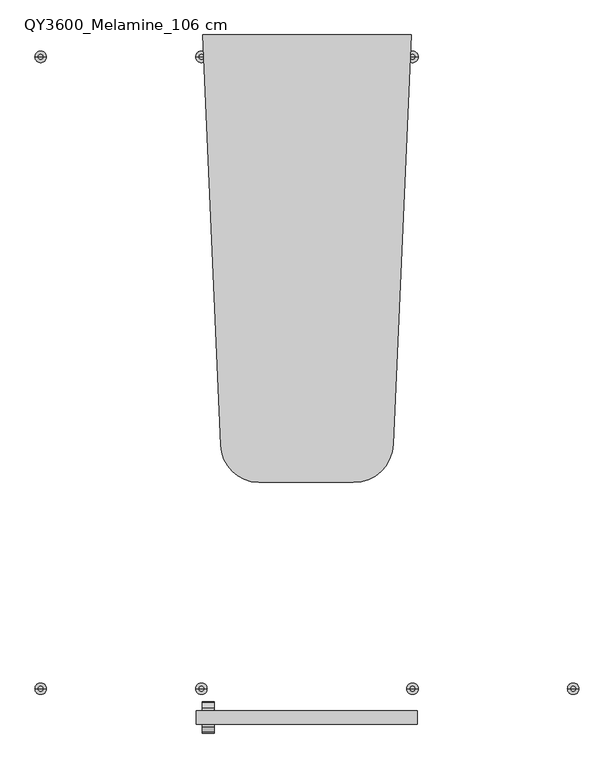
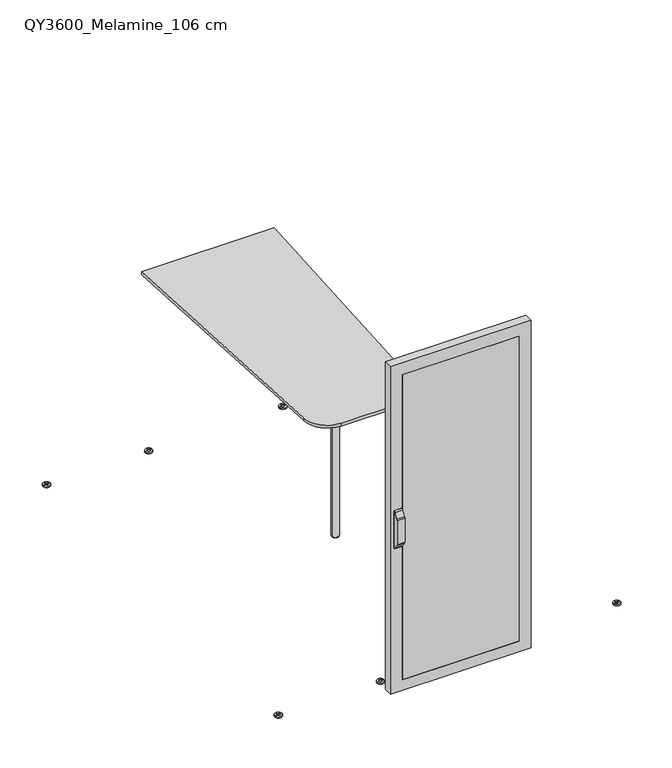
"""IFC4 building model written with IfcOpenShell, lengths in millimetres: furniture geometry, Qyos_600 : QY3600_Melamine_106 cm."""

from ifc_helpers import new_model, si_unit, point, frame, frame_2d, origin, origin_with_axes, place, context, project, spatial, polyline, circle_curve, ellipse_curve, trimmed, segment, composite_curve, outline, extrude, source, transform, mapped, element, save
from ifc_brep_helpers import plane_surface, cylinder_surface, revolved_surface, advanced_brep


def qy3600_melamine_106_cm_69a632e4(model_context):
    return source(origin(), model_context, "Body", "SolidModel", [
        advanced_brep(
        [(-374.085107, -1415.6314016, 980.9779398), (-374.085107, -1415.6314016, 985.9647191), (-374.085107, -1427.9469969, 991.7354618), (-374.085107, -1445.0438473, 1019.0961419), (-374.085107, -1447.6320377, 1028.7554001), (-374.085107, -1447.6320377, 1173.7554001), (-374.085107, -1443.2020658, 1196.5456299), (-374.085107, -1426.4262787, 1221.4167571), (-374.085107, -1415.6314016, 1224.0702851), (-374.085107, -1415.6314016, 1230.9669096), (-374.085107, -1427.162848, 1226.3079029), (-374.085107, -1447.7819627, 1194.5572505), (-374.085107, -1450.5, 1186.1919919), (-374.085107, -1450.5, 1025.2), (-374.085107, -1447.5610872, 1017.1254034), (-374.085107, -1427.1968679, 985.7672556), (-422.0329647, -1415.6314016, 1230.9669096), (-422.0329647, -1415.6314016, 980.9779398), (-422.0329647, -1427.1968679, 985.7672556), (-422.0329647, -1447.5610872, 1017.1254034), (-422.0329647, -1450.5, 1025.2), (-422.0329647, -1450.5, 1186.1919919), (-422.0329647, -1447.7819627, 1194.5572505), (-422.0329647, -1427.162848, 1226.3079029), (-419.3636893, -1415.6314016, 1224.0702851), (-419.3636893, -1415.6314016, 985.9647191), (-419.3636893, -1427.9469969, 991.7354618), (-419.3636893, -1426.4262787, 1221.4167571), (-419.3636893, -1443.2020658, 1196.5456299), (-419.3636893, -1447.6320377, 1173.7554001), (-419.3636893, -1447.6320377, 1028.7554001), (-419.3636893, -1445.0438473, 1019.0961419)],
        [
            (0, 1),
            (1, 2, circle_curve(frame((-374.085107, -1415.4805644, 1002.3136249), z_axis=(-1.0, 0.0, 0.0), x_axis=(0.0, -1.0, 0.0)), 16.3496016)),
            (2, 3, circle_curve(frame((-374.085107, 230.4570487, 2047.0433119), z_axis=(-1.0, 0.0, 0.0), x_axis=(0.0, -1.0, 0.0)), 1965.7005461)),
            (3, 4, circle_curve(frame((-374.085107, -1430.0644692, 1028.286235), z_axis=(-1.0, 0.0, 0.0), x_axis=(0.0, -1.0, 0.0)), 17.5738323)),
            (4, 5),
            (5, 6, circle_curve(frame((-374.085107, -1386.7942676, 1173.7554001), z_axis=(-1.0, 0.0, 0.0), x_axis=(0.0, -1.0, 0.0)), 60.8377701)),
            (6, 7, circle_curve(frame((-374.085107, -1702.3576761, 1389.4415655), z_axis=(1.0, 0.0, 0.0), x_axis=(0.0, -1.0, 0.0)), 323.0641922)),
            (7, 8, circle_curve(frame((-374.085107, -1415.6314016, 1200.7860796), z_axis=(-1.0, 0.0, 0.0), x_axis=(0.0, -1.0, 0.0)), 23.2842055)),
            (8, 9),
            (9, 10, circle_curve(frame((-374.085107, -1417.4087289, 1218.7657801), z_axis=(1.0, 0.0, 0.0), x_axis=(0.0, -1.0, 0.0)), 12.3299009)),
            (10, 11, circle_curve(frame((-374.085107, -818.9237769, 808.7424006), z_axis=(1.0, 0.0, 0.0), x_axis=(0.0, -1.0, 0.0)), 737.777552)),
            (11, 12, circle_curve(frame((-374.085107, -1431.7589098, 1184.7268438), z_axis=(1.0, 0.0, 0.0), x_axis=(0.0, -1.0, 0.0)), 18.7982744)),
            (12, 13),
            (13, 14, circle_curve(frame((-374.085107, -1403.525418, 1037.7252129), z_axis=(1.0, 0.0, 0.0), x_axis=(0.0, -1.0, 0.0)), 48.615762)),
            (14, 15, circle_curve(frame((-374.085107, -1050.5394908, 1252.6628295), z_axis=(1.0, 0.0, 0.0), x_axis=(0.0, -1.0, 0.0)), 461.6319174)),
            (15, 0, circle_curve(frame((-374.085107, -1417.6091735, 992.560998), z_axis=(1.0, 0.0, 0.0), x_axis=(0.0, -1.0, 0.0)), 11.7506945)),
            (16, 17),
            (17, 18, circle_curve(frame((-422.0329647, -1417.6091735, 992.560998), z_axis=(-1.0, 0.0, 0.0), x_axis=(0.0, -1.0, 0.0)), 11.7506945)),
            (18, 19, circle_curve(frame((-422.0329647, -1050.5394908, 1252.6628295), z_axis=(-1.0, 0.0, 0.0), x_axis=(0.0, -1.0, 0.0)), 461.6319174)),
            (19, 20, circle_curve(frame((-422.0329647, -1403.525418, 1037.7252129), z_axis=(-1.0, 0.0, 0.0), x_axis=(0.0, -1.0, 0.0)), 48.615762)),
            (20, 21),
            (21, 22, circle_curve(frame((-422.0329647, -1431.7589098, 1184.7268438), z_axis=(-1.0, 0.0, 0.0), x_axis=(0.0, -1.0, 0.0)), 18.7982744)),
            (22, 23, circle_curve(frame((-422.0329647, -818.9237769, 808.7424006), z_axis=(-1.0, 0.0, 0.0), x_axis=(0.0, -1.0, 0.0)), 737.777552)),
            (23, 16, circle_curve(frame((-422.0329647, -1417.4087289, 1218.7657801), z_axis=(-1.0, 0.0, 0.0), x_axis=(0.0, -1.0, 0.0)), 12.3299009)),
            (16, 9),
            (8, 24),
            (24, 25),
            (25, 1),
            (0, 17),
            (15, 18),
            (14, 19),
            (13, 20),
            (12, 21),
            (11, 22),
            (10, 23),
            (26, 25, circle_curve(frame((-419.3636893, -1415.4805644, 1002.3136249), z_axis=(1.0, 0.0, 0.0), x_axis=(0.0, -1.0, 0.0)), 16.3496016)),
            (24, 27, circle_curve(frame((-419.3636893, -1415.6314016, 1200.7860796), z_axis=(1.0, 0.0, 0.0), x_axis=(0.0, -1.0, 0.0)), 23.2842055)),
            (27, 28, circle_curve(frame((-419.3636893, -1702.3576761, 1389.4415655), z_axis=(-1.0, 0.0, 0.0), x_axis=(0.0, -1.0, 0.0)), 323.0641922)),
            (28, 29, circle_curve(frame((-419.3636893, -1386.7942676, 1173.7554001), z_axis=(1.0, 0.0, 0.0), x_axis=(0.0, -1.0, 0.0)), 60.8377701)),
            (29, 30),
            (30, 31, circle_curve(frame((-419.3636893, -1430.0644692, 1028.286235), z_axis=(1.0, 0.0, 0.0), x_axis=(0.0, -1.0, 0.0)), 17.5738323)),
            (31, 26, circle_curve(frame((-419.3636893, 230.4570487, 2047.0433119), z_axis=(1.0, 0.0, 0.0), x_axis=(0.0, -1.0, 0.0)), 1965.7005461)),
            (26, 2),
            (31, 3),
            (30, 4),
            (29, 5),
            (28, 6),
            (27, 7),
        ],
        [
            plane_surface(frame((-374.085107, -1415.6314016, 980.9779398), z_axis=(1.0, 0.0, 0.0), x_axis=(0.0, 0.0, -1.0))),
            plane_surface(frame((-422.0329647, -1415.6314016, 980.9779398), z_axis=(-1.0, 0.0, 0.0), x_axis=(0.0, 0.0, 1.0))),
            plane_surface(frame((-374.085107, -1415.6314016, 1230.9669096), z_axis=(0.0, 1.0, 0.0), x_axis=(-1.0, 0.0, 0.0))),
            cylinder_surface(frame((-422.0329647, -1417.6091735, 992.560998), z_axis=(1.0, 0.0, 0.0), x_axis=(0.0, -1.0, 0.0)), 11.7506945),
            cylinder_surface(frame((-422.0329647, -1050.5394908, 1252.6628295), z_axis=(1.0, 0.0, 0.0), x_axis=(0.0, -1.0, 0.0)), 461.6319174),
            cylinder_surface(frame((-422.0329647, -1403.525418, 1037.7252129), z_axis=(1.0, 0.0, 0.0), x_axis=(0.0, -1.0, 0.0)), 48.615762),
            plane_surface(frame((-374.085107, -1450.5, 1025.2), z_axis=(0.0, -1.0, 0.0), x_axis=(-1.0, 0.0, 0.0))),
            cylinder_surface(frame((-422.0329647, -1431.7589098, 1184.7268438), z_axis=(1.0, 0.0, 0.0), x_axis=(0.0, -1.0, 0.0)), 18.7982744),
            cylinder_surface(frame((-422.0329647, -818.9237769, 808.7424006), z_axis=(1.0, 0.0, 0.0), x_axis=(0.0, -1.0, 0.0)), 737.777552),
            cylinder_surface(frame((-422.0329647, -1417.4087289, 1218.7657801), z_axis=(1.0, 0.0, 0.0), x_axis=(0.0, -1.0, 0.0)), 12.3299009),
            plane_surface(frame((-419.3636893, -1401.7185794, 1224.0702851), z_axis=(1.0, 0.0, 0.0), x_axis=(0.0, 0.0, 1.0))),
            revolved_surface(polyline([(-374.085107, -1431.830166, 1002.3136249), (-419.3636893, -1431.830166, 1002.3136249)]), (-419.3636893, -1415.4805644, 1002.3136249), (1.0, 0.0, 0.0)),
            revolved_surface(polyline([(-374.085107, -1735.2434974, 2047.0433119), (-419.3636893, -1735.2434974, 2047.0433119)]), (-419.3636893, 230.4570487, 2047.0433119), (1.0, 0.0, 0.0)),
            revolved_surface(polyline([(-374.085107, -1447.6383015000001, 1028.286235), (-419.3636893, -1447.6383015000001, 1028.286235)]), (-419.3636893, -1430.0644692, 1028.286235), (1.0, 0.0, 0.0)),
            plane_surface(frame((-366.879078, -1447.6320377, 1028.7554001), z_axis=(0.0, 1.0, 0.0), x_axis=(-1.0, 0.0, 0.0))),
            revolved_surface(polyline([(-374.085107, -1447.6320377, 1173.7554001), (-419.3636893, -1447.6320377, 1173.7554001)]), (-419.3636893, -1386.7942676, 1173.7554001), (1.0, 0.0, 0.0)),
            cylinder_surface(frame((-419.3636893, -1702.3576761, 1389.4415655), z_axis=(-1.0, 0.0, 0.0), x_axis=(0.0, -1.0, 0.0)), 323.0641922),
            revolved_surface(polyline([(-374.085107, -1438.9156071, 1200.7860796), (-419.3636893, -1438.9156071, 1200.7860796)]), (-419.3636893, -1415.6314016, 1200.7860796), (1.0, 0.0, 0.0)),
        ],
        [
            (0, [[1, 2, 3, 4, 5, 6, 7, 8, 9, 10, 11, 12, 13, 14, 15, 16]]),
            (1, [[17, 18, 19, 20, 21, 22, 23, 24]]),
            (2, [[25, -9, 26, 27, 28, -1, 29, -17]]),
            (3, [[30, -18, -29, -16]]),
            (4, [[31, -19, -30, -15]]),
            (5, [[32, -20, -31, -14]]),
            (6, [[33, -21, -32, -13]]),
            (7, [[34, -22, -33, -12]]),
            (8, [[35, -23, -34, -11]]),
            (9, [[-25, -24, -35, -10]]),
            (10, [[36, -27, 37, 38, 39, 40, 41, 42]]),
            (11, [[43, -2, -28, -36]]),
            (12, [[44, -3, -43, -42]]),
            (13, [[45, -4, -44, -41]]),
            (14, [[46, -5, -45, -40]]),
            (15, [[47, -6, -46, -39]]),
            (16, [[48, -7, -47, -38]]),
            (17, [[-26, -8, -48, -37]]),
        ],
    ),
        extrude(outline(composite_curve([segment(polyline([(1230.9669096, -377.0853832), (1230.9669096, -417.0486701)]), True, "CONTINUOUS"), segment(trimmed(circle_curve(frame_2d((1225.973762, -417.0486701)), 4.9931477), [point((1230.9669096, -417.0486701))], [point((1225.973762, -422.0418178))], False, "CARTESIAN"), True, "CONTINUOUS"), segment(polyline([(1225.973762, -422.0418178), (985.9710874, -422.0418178)]), True, "CONTINUOUS"), segment(trimmed(circle_curve(frame_2d((985.9710874, -417.0486701)), 4.9931477), [point((985.9710874, -422.0418178))], [point((980.9779398, -417.0486701))], False, "CARTESIAN"), True, "CONTINUOUS"), segment(polyline([(980.9779398, -417.0486701), (980.9779398, -377.0831887)]), True, "CONTINUOUS"), segment(trimmed(circle_curve(frame_2d((983.9760215, -377.0831887)), 2.9980817), [point((980.9779398, -377.0831887))], [point((983.9760215, -374.085107))], False, "CARTESIAN"), True, "CONTINUOUS"), segment(polyline([(983.9760215, -374.085107), (985.9777208, -374.085107)]), True, "CONTINUOUS"), segment(trimmed(circle_curve(frame_2d((985.9777208, -376.3357001)), 2.2505931), [point((985.9777208, -374.085107))], [point((988.1941223, -375.9448887))], False, "CARTESIAN"), True, "CONTINUOUS"), segment(trimmed(circle_curve(frame_2d((1002.686839, -375.1402608)), 14.5150358), [point((988.1941223, -375.9448887))], [point((999.6402401, -389.331966))], True, "CARTESIAN"), True, "CONTINUOUS"), segment(trimmed(circle_curve(frame_2d((999.3564071, -397.3512428)), 8.0242982), [point((999.6402401, -389.331966))], [point((1007.3803501, -397.4267349))], False, "CARTESIAN"), True, "CONTINUOUS"), segment(trimmed(circle_curve(frame_2d((984.8527266, -400.9632944)), 22.803532), [point((1007.3803501, -397.4267349))], [point((1007.3098217, -404.9230861))], False, "CARTESIAN"), True, "CONTINUOUS"), segment(trimmed(circle_curve(frame_2d((1018.7344643, -406.9375589)), 11.600886), [point((1007.3098217, -404.9230861))], [point((1018.7344643, -418.5384449))], True, "CARTESIAN"), True, "CONTINUOUS"), segment(polyline([(1018.7344643, -418.5384449), (1193.2103851, -418.5384449)]), True, "CONTINUOUS"), segment(trimmed(circle_curve(frame_2d((1193.2103851, -406.5714853)), 11.9669596), [point((1193.2103851, -418.5384449))], [point((1205.1773447, -406.5714853))], True, "CARTESIAN"), True, "CONTINUOUS"), segment(polyline([(1205.1773447, -406.5714853), (1205.1773447, -398.0395804)]), True, "CONTINUOUS"), segment(trimmed(circle_curve(frame_2d((1213.8757406, -398.0395804)), 8.6983958), [point((1205.1773447, -398.0395804))], [point((1212.36528, -389.4733327))], False, "CARTESIAN"), True, "CONTINUOUS"), segment(trimmed(circle_curve(frame_2d((1209.9037954, -375.5135599)), 14.1751248), [point((1212.36528, -389.4733327))], [point((1224.0702851, -376.0082646))], True, "CARTESIAN"), True, "CONTINUOUS"), segment(trimmed(circle_curve(frame_2d((1225.9934427, -376.0082646)), 1.9231576), [point((1224.0702851, -376.0082646))], [point((1225.9934427, -374.085107))], False, "CARTESIAN"), True, "CONTINUOUS"), segment(polyline([(1225.9934427, -374.085107), (1227.9666334, -374.085107)]), True, "CONTINUOUS"), segment(trimmed(circle_curve(frame_2d((1227.9666334, -377.0853832)), 3.0002762), [point((1227.9666334, -374.085107))], [point((1230.9669096, -377.0853832))], False, "CARTESIAN"), True, "CONTINUOUS")], self_intersect=False)), frame((0.0, -1415.6314016, 0.0), z_axis=(0.0, 1.0, 0.0), x_axis=(0.0, 0.0, 1.0)), (0.0, 0.0, 1.0), 0.6314016),
        advanced_brep(
        [(-374.085107, -1359.3642803, 980.9779398), (-374.085107, -1347.798814, 985.7672556), (-374.085107, -1327.4345947, 1017.1254034), (-374.085107, -1324.4956819, 1025.2), (-374.085107, -1324.4956819, 1186.1919919), (-374.085107, -1327.2137192, 1194.5572505), (-374.085107, -1347.8328339, 1226.3079029), (-374.085107, -1359.3642803, 1230.9669096), (-374.085107, -1359.3642803, 1224.0702851), (-374.085107, -1348.5694032, 1221.4167571), (-374.085107, -1331.7936161, 1196.5456299), (-374.085107, -1327.3636441, 1173.7554001), (-374.085107, -1327.3636441, 1028.7554001), (-374.085107, -1329.9518346, 1019.0961419), (-374.085107, -1347.048685, 991.7354618), (-374.085107, -1359.3642803, 985.9647191), (-422.0329647, -1359.3642803, 1230.9669096), (-422.0329647, -1347.8328339, 1226.3079029), (-422.0329647, -1327.2137192, 1194.5572505), (-422.0329647, -1324.4956819, 1186.1919919), (-422.0329647, -1324.4956819, 1025.2), (-422.0329647, -1327.4345947, 1017.1254034), (-422.0329647, -1347.798814, 985.7672556), (-422.0329647, -1359.3642803, 980.9779398), (-419.3636893, -1359.3642803, 985.9647191), (-419.3636893, -1359.3642803, 1224.0702851), (-419.3636893, -1347.048685, 991.7354618), (-419.3636893, -1329.9518346, 1019.0961419), (-419.3636893, -1327.3636441, 1028.7554001), (-419.3636893, -1327.3636441, 1173.7554001), (-419.3636893, -1331.7936161, 1196.5456299), (-419.3636893, -1348.5694032, 1221.4167571)],
        [
            (0, 1, circle_curve(frame((-374.085107, -1357.3865084, 992.560998), z_axis=(1.0, 0.0, 0.0), x_axis=(0.0, 1.0, 0.0)), 11.7506945)),
            (1, 2, circle_curve(frame((-374.085107, -1724.4561911, 1252.6628295), z_axis=(1.0, 0.0, 0.0), x_axis=(0.0, 1.0, 0.0)), 461.6319174)),
            (2, 3, circle_curve(frame((-374.085107, -1371.4702639, 1037.7252129), z_axis=(1.0, 0.0, 0.0), x_axis=(0.0, 1.0, 0.0)), 48.615762)),
            (3, 4),
            (4, 5, circle_curve(frame((-374.085107, -1343.236772, 1184.7268438), z_axis=(1.0, 0.0, 0.0), x_axis=(0.0, 1.0, 0.0)), 18.7982744)),
            (5, 6, circle_curve(frame((-374.085107, -1956.071905, 808.7424006), z_axis=(1.0, 0.0, 0.0), x_axis=(0.0, 1.0, 0.0)), 737.777552)),
            (6, 7, circle_curve(frame((-374.085107, -1357.586953, 1218.7657801), z_axis=(1.0, 0.0, 0.0), x_axis=(0.0, 1.0, 0.0)), 12.3299009)),
            (7, 8),
            (8, 9, circle_curve(frame((-374.085107, -1359.3642803, 1200.7860796), z_axis=(-1.0, 0.0, 0.0), x_axis=(0.0, 1.0, 0.0)), 23.2842055)),
            (9, 10, circle_curve(frame((-374.085107, -1072.6380058, 1389.4415655), z_axis=(1.0, 0.0, 0.0), x_axis=(0.0, 1.0, 0.0)), 323.0641922)),
            (10, 11, circle_curve(frame((-374.085107, -1388.2014142, 1173.7554001), z_axis=(-1.0, 0.0, 0.0), x_axis=(0.0, 1.0, 0.0)), 60.8377701)),
            (11, 12),
            (12, 13, circle_curve(frame((-374.085107, -1344.9312127, 1028.286235), z_axis=(-1.0, 0.0, 0.0), x_axis=(0.0, 1.0, 0.0)), 17.5738323)),
            (13, 14, circle_curve(frame((-374.085107, -3005.4527306, 2047.0433119), z_axis=(-1.0, 0.0, 0.0), x_axis=(0.0, 1.0, 0.0)), 1965.7005461)),
            (14, 15, circle_curve(frame((-374.085107, -1359.5151175, 1002.3136249), z_axis=(-1.0, 0.0, 0.0), x_axis=(0.0, 1.0, 0.0)), 16.3496016)),
            (15, 0),
            (16, 17, circle_curve(frame((-422.0329647, -1357.586953, 1218.7657801), z_axis=(-1.0, 0.0, 0.0), x_axis=(0.0, 1.0, 0.0)), 12.3299009)),
            (17, 18, circle_curve(frame((-422.0329647, -1956.071905, 808.7424006), z_axis=(-1.0, 0.0, 0.0), x_axis=(0.0, 1.0, 0.0)), 737.777552)),
            (18, 19, circle_curve(frame((-422.0329647, -1343.236772, 1184.7268438), z_axis=(-1.0, 0.0, 0.0), x_axis=(0.0, 1.0, 0.0)), 18.7982744)),
            (19, 20),
            (20, 21, circle_curve(frame((-422.0329647, -1371.4702639, 1037.7252129), z_axis=(-1.0, 0.0, 0.0), x_axis=(0.0, 1.0, 0.0)), 48.615762)),
            (21, 22, circle_curve(frame((-422.0329647, -1724.4561911, 1252.6628295), z_axis=(-1.0, 0.0, 0.0), x_axis=(0.0, 1.0, 0.0)), 461.6319174)),
            (22, 23, circle_curve(frame((-422.0329647, -1357.3865084, 992.560998), z_axis=(-1.0, 0.0, 0.0), x_axis=(0.0, 1.0, 0.0)), 11.7506945)),
            (23, 16),
            (23, 0),
            (15, 24),
            (24, 25),
            (25, 8),
            (7, 16),
            (22, 1),
            (21, 2),
            (20, 3),
            (19, 4),
            (18, 5),
            (17, 6),
            (26, 27, circle_curve(frame((-419.3636893, -3005.4527306, 2047.0433119), z_axis=(1.0, 0.0, 0.0), x_axis=(0.0, 1.0, 0.0)), 1965.7005461)),
            (27, 28, circle_curve(frame((-419.3636893, -1344.9312127, 1028.286235), z_axis=(1.0, 0.0, 0.0), x_axis=(0.0, 1.0, 0.0)), 17.5738323)),
            (28, 29),
            (29, 30, circle_curve(frame((-419.3636893, -1388.2014142, 1173.7554001), z_axis=(1.0, 0.0, 0.0), x_axis=(0.0, 1.0, 0.0)), 60.8377701)),
            (30, 31, circle_curve(frame((-419.3636893, -1072.6380058, 1389.4415655), z_axis=(-1.0, 0.0, 0.0), x_axis=(0.0, 1.0, 0.0)), 323.0641922)),
            (31, 25, circle_curve(frame((-419.3636893, -1359.3642803, 1200.7860796), z_axis=(1.0, 0.0, 0.0), x_axis=(0.0, 1.0, 0.0)), 23.2842055)),
            (24, 26, circle_curve(frame((-419.3636893, -1359.5151175, 1002.3136249), z_axis=(1.0, 0.0, 0.0), x_axis=(0.0, 1.0, 0.0)), 16.3496016)),
            (14, 26),
            (13, 27),
            (12, 28),
            (11, 29),
            (10, 30),
            (9, 31),
        ],
        [
            plane_surface(frame((-374.085107, -1359.3642803, 980.9779398), z_axis=(1.0, 0.0, 0.0), x_axis=(0.0, 0.0, -1.0))),
            plane_surface(frame((-422.0329647, -1359.3642803, 980.9779398), z_axis=(-1.0, 0.0, 0.0), x_axis=(0.0, 0.0, 1.0))),
            plane_surface(frame((-374.085107, -1359.3642803, 1230.9669096), z_axis=(0.0, -1.0, 0.0), x_axis=(-1.0, 0.0, 0.0))),
            cylinder_surface(frame((-422.0329647, -1357.3865084, 992.560998), z_axis=(1.0, 0.0, 0.0), x_axis=(0.0, 1.0, 0.0)), 11.7506945),
            cylinder_surface(frame((-422.0329647, -1724.4561911, 1252.6628295), z_axis=(1.0, 0.0, 0.0), x_axis=(0.0, 1.0, 0.0)), 461.6319174),
            cylinder_surface(frame((-422.0329647, -1371.4702639, 1037.7252129), z_axis=(1.0, 0.0, 0.0), x_axis=(0.0, 1.0, 0.0)), 48.615762),
            plane_surface(frame((-374.085107, -1324.4956819, 1025.2), z_axis=(0.0, 1.0, 0.0), x_axis=(-1.0, 0.0, 0.0))),
            cylinder_surface(frame((-422.0329647, -1343.236772, 1184.7268438), z_axis=(1.0, 0.0, 0.0), x_axis=(0.0, 1.0, 0.0)), 18.7982744),
            cylinder_surface(frame((-422.0329647, -1956.071905, 808.7424006), z_axis=(1.0, 0.0, 0.0), x_axis=(0.0, 1.0, 0.0)), 737.777552),
            cylinder_surface(frame((-422.0329647, -1357.586953, 1218.7657801), z_axis=(1.0, 0.0, 0.0), x_axis=(0.0, 1.0, 0.0)), 12.3299009),
            plane_surface(frame((-419.3636893, -1373.2771024, 1224.0702851), z_axis=(1.0, 0.0, 0.0), x_axis=(0.0, 0.0, 1.0))),
            revolved_surface(polyline([(-374.085107, -1343.1655159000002, 1002.3136249), (-419.3636893, -1343.1655159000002, 1002.3136249)]), (-419.3636893, -1359.5151175, 1002.3136249), (1.0, 0.0, 0.0)),
            revolved_surface(polyline([(-374.085107, -1039.7521844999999, 2047.0433119), (-419.3636893, -1039.7521844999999, 2047.0433119)]), (-419.3636893, -3005.4527306, 2047.0433119), (1.0, 0.0, 0.0)),
            revolved_surface(polyline([(-374.085107, -1327.3573804, 1028.286235), (-419.3636893, -1327.3573804, 1028.286235)]), (-419.3636893, -1344.9312127, 1028.286235), (1.0, 0.0, 0.0)),
            plane_surface(frame((-366.879078, -1327.3636441, 1028.7554001), z_axis=(0.0, -1.0, 0.0), x_axis=(-1.0, 0.0, 0.0))),
            revolved_surface(polyline([(-374.085107, -1327.3636441, 1173.7554001), (-419.3636893, -1327.3636441, 1173.7554001)]), (-419.3636893, -1388.2014142, 1173.7554001), (1.0, 0.0, 0.0)),
            cylinder_surface(frame((-419.3636893, -1072.6380058, 1389.4415655), z_axis=(-1.0, 0.0, 0.0), x_axis=(0.0, 1.0, 0.0)), 323.0641922),
            revolved_surface(polyline([(-374.085107, -1336.0800748, 1200.7860796), (-419.3636893, -1336.0800748, 1200.7860796)]), (-419.3636893, -1359.3642803, 1200.7860796), (1.0, 0.0, 0.0)),
        ],
        [
            (0, [[1, 2, 3, 4, 5, 6, 7, 8, 9, 10, 11, 12, 13, 14, 15, 16]]),
            (1, [[17, 18, 19, 20, 21, 22, 23, 24]]),
            (2, [[-24, 25, -16, 26, 27, 28, -8, 29]]),
            (3, [[-1, -25, -23, 30]]),
            (4, [[-2, -30, -22, 31]]),
            (5, [[-3, -31, -21, 32]]),
            (6, [[-4, -32, -20, 33]]),
            (7, [[-5, -33, -19, 34]]),
            (8, [[-6, -34, -18, 35]]),
            (9, [[-7, -35, -17, -29]]),
            (10, [[36, 37, 38, 39, 40, 41, -27, 42]]),
            (11, [[-42, -26, -15, 43]]),
            (12, [[-36, -43, -14, 44]]),
            (13, [[-37, -44, -13, 45]]),
            (14, [[-38, -45, -12, 46]]),
            (15, [[-39, -46, -11, 47]]),
            (16, [[-40, -47, -10, 48]]),
            (17, [[-41, -48, -9, -28]]),
        ],
    ),
        extrude(outline(composite_curve([segment(polyline([(1230.9669096, -377.0853832), (1230.9669096, -417.0486701)]), True, "CONTINUOUS"), segment(trimmed(circle_curve(frame_2d((1225.973762, -417.0486701)), 4.9931477), [point((1230.9669096, -417.0486701))], [point((1225.973762, -422.0418178))], False, "CARTESIAN"), True, "CONTINUOUS"), segment(polyline([(1225.973762, -422.0418178), (985.9710874, -422.0418178)]), True, "CONTINUOUS"), segment(trimmed(circle_curve(frame_2d((985.9710874, -417.0486701)), 4.9931477), [point((985.9710874, -422.0418178))], [point((980.9779398, -417.0486701))], False, "CARTESIAN"), True, "CONTINUOUS"), segment(polyline([(980.9779398, -417.0486701), (980.9779398, -377.0831887)]), True, "CONTINUOUS"), segment(trimmed(circle_curve(frame_2d((983.9760215, -377.0831887)), 2.9980817), [point((980.9779398, -377.0831887))], [point((983.9760215, -374.085107))], False, "CARTESIAN"), True, "CONTINUOUS"), segment(polyline([(983.9760215, -374.085107), (985.9777208, -374.085107)]), True, "CONTINUOUS"), segment(trimmed(circle_curve(frame_2d((985.9777208, -376.3357001)), 2.2505931), [point((985.9777208, -374.085107))], [point((988.1941223, -375.9448887))], False, "CARTESIAN"), True, "CONTINUOUS"), segment(trimmed(circle_curve(frame_2d((1002.686839, -375.1402608)), 14.5150358), [point((988.1941223, -375.9448887))], [point((999.6402401, -389.331966))], True, "CARTESIAN"), True, "CONTINUOUS"), segment(trimmed(circle_curve(frame_2d((999.3564071, -397.3512428)), 8.0242982), [point((999.6402401, -389.331966))], [point((1007.3803501, -397.4267349))], False, "CARTESIAN"), True, "CONTINUOUS"), segment(trimmed(circle_curve(frame_2d((984.8527266, -400.9632944)), 22.803532), [point((1007.3803501, -397.4267349))], [point((1007.3098217, -404.9230861))], False, "CARTESIAN"), True, "CONTINUOUS"), segment(trimmed(circle_curve(frame_2d((1018.7344643, -406.9375589)), 11.600886), [point((1007.3098217, -404.9230861))], [point((1018.7344643, -418.5384449))], True, "CARTESIAN"), True, "CONTINUOUS"), segment(polyline([(1018.7344643, -418.5384449), (1193.2103851, -418.5384449)]), True, "CONTINUOUS"), segment(trimmed(circle_curve(frame_2d((1193.2103851, -406.5714853)), 11.9669596), [point((1193.2103851, -418.5384449))], [point((1205.1773447, -406.5714853))], True, "CARTESIAN"), True, "CONTINUOUS"), segment(polyline([(1205.1773447, -406.5714853), (1205.1773447, -398.0395804)]), True, "CONTINUOUS"), segment(trimmed(circle_curve(frame_2d((1213.8757406, -398.0395804)), 8.6983958), [point((1205.1773447, -398.0395804))], [point((1212.36528, -389.4733327))], False, "CARTESIAN"), True, "CONTINUOUS"), segment(trimmed(circle_curve(frame_2d((1209.9037954, -375.5135599)), 14.1751248), [point((1212.36528, -389.4733327))], [point((1224.0702851, -376.0082646))], True, "CARTESIAN"), True, "CONTINUOUS"), segment(trimmed(circle_curve(frame_2d((1225.9934427, -376.0082646)), 1.9231576), [point((1224.0702851, -376.0082646))], [point((1225.9934427, -374.085107))], False, "CARTESIAN"), True, "CONTINUOUS"), segment(polyline([(1225.9934427, -374.085107), (1227.9666334, -374.085107)]), True, "CONTINUOUS"), segment(trimmed(circle_curve(frame_2d((1227.9666334, -377.0853832)), 3.0002762), [point((1227.9666334, -374.085107))], [point((1230.9669096, -377.0853832))], False, "CARTESIAN"), True, "CONTINUOUS")], self_intersect=False)), frame((0.0, -1359.9956819, 0.0), z_axis=(0.0, 1.0, 0.0), x_axis=(0.0, 0.0, 1.0)), (0.0, 0.0, 1.0), 0.6314016),
        extrude(outline(polyline([(369.5, -1415.0), (-369.5, -1415.0), (-369.5, -1410.0), (369.5, -1410.0), (369.5, -1415.0)])), frame((0.0, 0.0, 82.0), z_axis=(0.0, 0.0, 1.0), x_axis=(1.0, 0.0, 0.0)), (0.0, 0.0, 1.0), 2040.1),
        extrude(outline(polyline([(10.0, -445.0), (10.0, 445.0), (2202.1, 445.0), (2202.1, -445.0), (10.0, -445.0)]), holes=[polyline([(82.0, 369.5), (82.0, -369.5), (2122.1, -369.5), (2122.1, 369.5), (82.0, 369.5)])]), frame((0.0, -1415.0, 0.0), z_axis=(0.0, 1.0, 0.0), x_axis=(0.0, 0.0, 1.0)), (0.0, 0.0, 1.0), 55.0043181),
        advanced_brep(
        [(0.0, -40.0, 82.0), (18.7621631, -40.0, 82.0), (-18.7621631, -40.0, 82.0), (22.480604, -40.0, 85.7184409), (-22.480604, -40.0, 85.7184409), (22.480604, -40.0, 1128.0), (-22.480604, -40.0, 1128.0), (0.0, -40.0, 1128.0)],
        [
            (0, 1),
            (1, 2, circle_curve(frame((0.0, -40.0, 82.0), z_axis=(0.0, 0.0, -1.0), x_axis=(1.0, 0.0, 0.0)), 18.7621631)),
            (2, 0),
            (2, 1, circle_curve(frame((0.0, -40.0, 82.0), z_axis=(0.0, 0.0, -1.0), x_axis=(1.0, 0.0, 0.0)), 18.7621631)),
            (1, 3, circle_curve(frame((16.4330916, -40.0, 88.0475124), z_axis=(0.0, -1.0, 0.0), x_axis=(-1.0, 0.0, 0.0)), 6.4805077)),
            (3, 4, circle_curve(frame((0.0, -40.0, 85.7184409), z_axis=(0.0, 0.0, -1.0), x_axis=(1.0, 0.0, 0.0)), 22.480604)),
            (4, 2, circle_curve(frame((-16.4330916, -40.0, 88.0475124), z_axis=(0.0, -1.0, 0.0), x_axis=(1.0, 0.0, 0.0)), 6.4805077)),
            (4, 3, circle_curve(frame((0.0, -40.0, 85.7184409), z_axis=(0.0, 0.0, -1.0), x_axis=(1.0, 0.0, 0.0)), 22.480604)),
            (3, 5),
            (5, 6, circle_curve(frame((0.0, -40.0, 1128.0), z_axis=(0.0, 0.0, -1.0), x_axis=(1.0, 0.0, 0.0)), 22.480604)),
            (6, 4),
            (6, 5, circle_curve(frame((0.0, -40.0, 1128.0), z_axis=(0.0, 0.0, -1.0), x_axis=(1.0, 0.0, 0.0)), 22.480604)),
            (5, 7),
            (7, 6),
        ],
        [
            plane_surface(frame((0.0, -40.0, 82.0), z_axis=(0.0, 0.0, -1.0), x_axis=(1.0, 0.0, 0.0))),
            revolved_surface(trimmed(ellipse_curve(frame((16.4330916, -40.0, 88.0475124), z_axis=(0.0, 1.0, 0.0), x_axis=(-1.0, 0.0, 0.0)), 6.4805077, 6.4805077), [point((22.480604, -40.0, 85.7184409))], [point((18.7621631, -40.0, 82.0))], True, "CARTESIAN"), (0.0, -40.0, 1997.4144888), (0.0, 0.0, -1.0)),
            cylinder_surface(frame((0.0, -40.0, 1997.4144888), z_axis=(0.0, 0.0, -1.0), x_axis=(1.0, 0.0, 0.0)), 22.480604),
            plane_surface(frame((0.0, -40.0, 1128.0), z_axis=(0.0, 0.0, 1.0), x_axis=(1.0, 0.0, 0.0))),
        ],
        [
            (0, [[1, 2, 3]]),
            (0, [[-3, 4, -1]]),
            (1, [[-2, 5, 6, 7]]),
            (1, [[-4, -7, 8, -5]]),
            (2, [[-6, 9, 10, 11]]),
            (2, [[-8, -11, 12, -9]]),
            (3, [[-10, 13, 14]]),
            (3, [[-12, -14, -13]]),
        ],
    ),
        extrude(outline(composite_curve([segment(polyline([(-420.0, 1360.0), (420.0, 1360.0), (348.0404396, -287.7046855)]), True, "CONTINUOUS"), segment(trimmed(circle_curve(frame_2d((187.5, -280.6934658)), 160.6934658), [point((348.0404396, -287.7046855))], [point((187.5, -441.3869317))], False, "CARTESIAN"), True, "CONTINUOUS"), segment(polyline([(187.5, -441.3869317), (-194.7276636, -441.3869317)]), True, "CONTINUOUS"), segment(trimmed(circle_curve(frame_2d((-191.1138318, -284.8919121)), 156.5367399), [point((-194.7276636, -441.3869317))], [point((-347.5, -291.7561198))], False, "CARTESIAN"), True, "CONTINUOUS"), segment(polyline([(-347.5, -291.7561198), (-420.0, 1360.0)]), True, "CONTINUOUS")], self_intersect=False)), frame((0.0, 0.0, 1128.0), z_axis=(0.0, 0.0, 1.0), x_axis=(1.0, 0.0, 0.0)), (0.0, 0.0, 1.0), 19.0),
        advanced_brep(
        [(401.8585356, -1272.0, 0.0), (448.1414644, -1272.0, 0.0), (425.0, -1272.0, 0.0), (401.8585356, -1272.0, 7.0), (448.1414644, -1272.0, 7.0), (415.3615446, -1272.0, 7.0), (434.6384554, -1272.0, 7.0), (415.3615446, -1272.0, 17.0), (434.6384554, -1272.0, 17.0), (425.0, -1272.0, 17.0)],
        [
            (0, 1, circle_curve(frame((425.0, -1272.0, 0.0), z_axis=(0.0, 0.0, -1.0), x_axis=(1.0, 0.0, 0.0)), 23.1414644)),
            (1, 2),
            (2, 0),
            (1, 0, circle_curve(frame((425.0, -1272.0, 0.0), z_axis=(0.0, 0.0, -1.0), x_axis=(1.0, 0.0, 0.0)), 23.1414644)),
            (3, 4, circle_curve(frame((425.0, -1272.0, 7.0), z_axis=(0.0, 0.0, -1.0), x_axis=(1.0, 0.0, 0.0)), 23.1414644)),
            (4, 1),
            (0, 3),
            (4, 3, circle_curve(frame((425.0, -1272.0, 7.0), z_axis=(0.0, 0.0, -1.0), x_axis=(1.0, 0.0, 0.0)), 23.1414644)),
            (5, 6, circle_curve(frame((425.0, -1272.0, 7.0), z_axis=(0.0, 0.0, -1.0), x_axis=(1.0, 0.0, 0.0)), 9.6384554)),
            (6, 4),
            (3, 5),
            (6, 5, circle_curve(frame((425.0, -1272.0, 7.0), z_axis=(0.0, 0.0, -1.0), x_axis=(1.0, 0.0, 0.0)), 9.6384554)),
            (7, 8, circle_curve(frame((425.0, -1272.0, 17.0), z_axis=(0.0, 0.0, -1.0), x_axis=(1.0, 0.0, 0.0)), 9.6384554)),
            (8, 6),
            (5, 7),
            (8, 7, circle_curve(frame((425.0, -1272.0, 17.0), z_axis=(0.0, 0.0, -1.0), x_axis=(1.0, 0.0, 0.0)), 9.6384554)),
            (9, 8),
            (7, 9),
        ],
        [
            plane_surface(frame((425.0, -1272.0, 0.0), z_axis=(0.0, 0.0, -1.0), x_axis=(1.0, 0.0, 0.0))),
            cylinder_surface(frame((425.0, -1272.0, 1997.4144888), z_axis=(0.0, 0.0, 1.0), x_axis=(1.0, 0.0, 0.0)), 23.1414644),
            plane_surface(frame((425.0, -1272.0, 7.0), z_axis=(0.0, 0.0, 1.0), x_axis=(1.0, 0.0, 0.0))),
            cylinder_surface(frame((425.0, -1272.0, 1997.4144888), z_axis=(0.0, 0.0, 1.0), x_axis=(1.0, 0.0, 0.0)), 9.6384554),
            plane_surface(frame((425.0, -1272.0, 17.0), z_axis=(0.0, 0.0, 1.0), x_axis=(1.0, 0.0, 0.0))),
        ],
        [
            (0, [[1, 2, 3]]),
            (0, [[4, -3, -2]]),
            (1, [[5, 6, -1, 7]]),
            (1, [[8, -7, -4, -6]]),
            (2, [[9, 10, -5, 11]]),
            (2, [[12, -11, -8, -10]]),
            (3, [[13, 14, -9, 15]]),
            (3, [[16, -15, -12, -14]]),
            (4, [[17, -13, 18]]),
            (4, [[-18, -16, -17]]),
        ],
    ),
        extrude(outline(composite_curve([segment(trimmed(circle_curve(frame_2d((425.0, -1272.0)), 23.1414644), [point((401.8585356, -1272.0))], [point((448.1414644, -1272.0))], False, "CARTESIAN"), True, "CONTINUOUS"), segment(trimmed(circle_curve(frame_2d((425.0, -1272.0)), 23.1414644), [point((448.1414644, -1272.0))], [point((401.8585356, -1272.0))], False, "CARTESIAN"), True, "CONTINUOUS")], self_intersect=False)), origin_with_axes(), (0.0, 0.0, 1.0), 7.0),
        advanced_brep(
        [(401.8585356, 1272.0, 0.0), (448.1414644, 1272.0, 0.0), (425.0, 1272.0, 0.0), (401.8585356, 1272.0, 7.0), (448.1414644, 1272.0, 7.0), (415.3615446, 1272.0, 7.0), (434.6384554, 1272.0, 7.0), (415.3615446, 1272.0, 17.0), (434.6384554, 1272.0, 17.0), (425.0, 1272.0, 17.0)],
        [
            (0, 1, circle_curve(frame((425.0, 1272.0, 0.0), z_axis=(0.0, 0.0, -1.0), x_axis=(1.0, 0.0, 0.0)), 23.1414644)),
            (1, 2),
            (2, 0),
            (1, 0, circle_curve(frame((425.0, 1272.0, 0.0), z_axis=(0.0, 0.0, -1.0), x_axis=(1.0, 0.0, 0.0)), 23.1414644)),
            (3, 4, circle_curve(frame((425.0, 1272.0, 7.0), z_axis=(0.0, 0.0, -1.0), x_axis=(1.0, 0.0, 0.0)), 23.1414644)),
            (4, 1),
            (0, 3),
            (4, 3, circle_curve(frame((425.0, 1272.0, 7.0), z_axis=(0.0, 0.0, -1.0), x_axis=(1.0, 0.0, 0.0)), 23.1414644)),
            (5, 6, circle_curve(frame((425.0, 1272.0, 7.0), z_axis=(0.0, 0.0, -1.0), x_axis=(1.0, 0.0, 0.0)), 9.6384554)),
            (6, 4),
            (3, 5),
            (6, 5, circle_curve(frame((425.0, 1272.0, 7.0), z_axis=(0.0, 0.0, -1.0), x_axis=(1.0, 0.0, 0.0)), 9.6384554)),
            (7, 8, circle_curve(frame((425.0, 1272.0, 17.0), z_axis=(0.0, 0.0, -1.0), x_axis=(1.0, 0.0, 0.0)), 9.6384554)),
            (8, 6),
            (5, 7),
            (8, 7, circle_curve(frame((425.0, 1272.0, 17.0), z_axis=(0.0, 0.0, -1.0), x_axis=(1.0, 0.0, 0.0)), 9.6384554)),
            (9, 8),
            (7, 9),
        ],
        [
            plane_surface(frame((425.0, 1272.0, 0.0), z_axis=(0.0, 0.0, -1.0), x_axis=(1.0, 0.0, 0.0))),
            cylinder_surface(frame((425.0, 1272.0, 1997.4144888), z_axis=(0.0, 0.0, 1.0), x_axis=(1.0, 0.0, 0.0)), 23.1414644),
            plane_surface(frame((425.0, 1272.0, 7.0), z_axis=(0.0, 0.0, 1.0), x_axis=(1.0, 0.0, 0.0))),
            cylinder_surface(frame((425.0, 1272.0, 1997.4144888), z_axis=(0.0, 0.0, 1.0), x_axis=(1.0, 0.0, 0.0)), 9.6384554),
            plane_surface(frame((425.0, 1272.0, 17.0), z_axis=(0.0, 0.0, 1.0), x_axis=(1.0, 0.0, 0.0))),
        ],
        [
            (0, [[1, 2, 3]]),
            (0, [[4, -3, -2]]),
            (1, [[5, 6, -1, 7]]),
            (1, [[8, -7, -4, -6]]),
            (2, [[9, 10, -5, 11]]),
            (2, [[12, -11, -8, -10]]),
            (3, [[13, 14, -9, 15]]),
            (3, [[16, -15, -12, -14]]),
            (4, [[17, -13, 18]]),
            (4, [[-18, -16, -17]]),
        ],
    ),
        extrude(outline(composite_curve([segment(trimmed(circle_curve(frame_2d((425.0, 1272.0)), 23.1414644), [point((401.8585356, 1272.0))], [point((448.1414644, 1272.0))], False, "CARTESIAN"), True, "CONTINUOUS"), segment(trimmed(circle_curve(frame_2d((425.0, 1272.0)), 23.1414644), [point((448.1414644, 1272.0))], [point((401.8585356, 1272.0))], False, "CARTESIAN"), True, "CONTINUOUS")], self_intersect=False)), origin_with_axes(), (0.0, 0.0, 1.0), 7.0),
        advanced_brep(
        [(1048.8585356, -1272.0, 0.0), (1095.1414644, -1272.0, 0.0), (1072.0, -1272.0, 0.0), (1048.8585356, -1272.0, 7.0), (1095.1414644, -1272.0, 7.0), (1062.3615446, -1272.0, 7.0), (1081.6384554, -1272.0, 7.0), (1062.3615446, -1272.0, 17.0), (1081.6384554, -1272.0, 17.0), (1072.0, -1272.0, 17.0)],
        [
            (0, 1, circle_curve(frame((1072.0, -1272.0, 0.0), z_axis=(0.0, 0.0, -1.0), x_axis=(1.0, 0.0, 0.0)), 23.1414644)),
            (1, 2),
            (2, 0),
            (1, 0, circle_curve(frame((1072.0, -1272.0, 0.0), z_axis=(0.0, 0.0, -1.0), x_axis=(1.0, 0.0, 0.0)), 23.1414644)),
            (3, 4, circle_curve(frame((1072.0, -1272.0, 7.0), z_axis=(0.0, 0.0, -1.0), x_axis=(1.0, 0.0, 0.0)), 23.1414644)),
            (4, 1),
            (0, 3),
            (4, 3, circle_curve(frame((1072.0, -1272.0, 7.0), z_axis=(0.0, 0.0, -1.0), x_axis=(1.0, 0.0, 0.0)), 23.1414644)),
            (5, 6, circle_curve(frame((1072.0, -1272.0, 7.0), z_axis=(0.0, 0.0, -1.0), x_axis=(1.0, 0.0, 0.0)), 9.6384554)),
            (6, 4),
            (3, 5),
            (6, 5, circle_curve(frame((1072.0, -1272.0, 7.0), z_axis=(0.0, 0.0, -1.0), x_axis=(1.0, 0.0, 0.0)), 9.6384554)),
            (7, 8, circle_curve(frame((1072.0, -1272.0, 17.0), z_axis=(0.0, 0.0, -1.0), x_axis=(1.0, 0.0, 0.0)), 9.6384554)),
            (8, 6),
            (5, 7),
            (8, 7, circle_curve(frame((1072.0, -1272.0, 17.0), z_axis=(0.0, 0.0, -1.0), x_axis=(1.0, 0.0, 0.0)), 9.6384554)),
            (9, 8),
            (7, 9),
        ],
        [
            plane_surface(frame((1072.0, -1272.0, 0.0), z_axis=(0.0, 0.0, -1.0), x_axis=(1.0, 0.0, 0.0))),
            cylinder_surface(frame((1072.0, -1272.0, 1997.4144888), z_axis=(0.0, 0.0, 1.0), x_axis=(1.0, 0.0, 0.0)), 23.1414644),
            plane_surface(frame((1072.0, -1272.0, 7.0), z_axis=(0.0, 0.0, 1.0), x_axis=(1.0, 0.0, 0.0))),
            cylinder_surface(frame((1072.0, -1272.0, 1997.4144888), z_axis=(0.0, 0.0, 1.0), x_axis=(1.0, 0.0, 0.0)), 9.6384554),
            plane_surface(frame((1072.0, -1272.0, 17.0), z_axis=(0.0, 0.0, 1.0), x_axis=(1.0, 0.0, 0.0))),
        ],
        [
            (0, [[1, 2, 3]]),
            (0, [[4, -3, -2]]),
            (1, [[5, 6, -1, 7]]),
            (1, [[8, -7, -4, -6]]),
            (2, [[9, 10, -5, 11]]),
            (2, [[12, -11, -8, -10]]),
            (3, [[13, 14, -9, 15]]),
            (3, [[16, -15, -12, -14]]),
            (4, [[17, -13, 18]]),
            (4, [[-18, -16, -17]]),
        ],
    ),
        extrude(outline(composite_curve([segment(trimmed(circle_curve(frame_2d((1072.0, -1272.0)), 23.1414644), [point((1048.8585356, -1272.0))], [point((1095.1414644, -1272.0))], False, "CARTESIAN"), True, "CONTINUOUS"), segment(trimmed(circle_curve(frame_2d((1072.0, -1272.0)), 23.1414644), [point((1095.1414644, -1272.0))], [point((1048.8585356, -1272.0))], False, "CARTESIAN"), True, "CONTINUOUS")], self_intersect=False)), origin_with_axes(), (0.0, 0.0, 1.0), 7.0),
        advanced_brep(
        [(-448.1414644, -1272.0, 0.0), (-401.8585356, -1272.0, 0.0), (-425.0, -1272.0, 0.0), (-448.1414644, -1272.0, 7.0), (-401.8585356, -1272.0, 7.0), (-434.6384554, -1272.0, 7.0), (-415.3615446, -1272.0, 7.0), (-434.6384554, -1272.0, 17.0), (-415.3615446, -1272.0, 17.0), (-425.0, -1272.0, 17.0)],
        [
            (0, 1, circle_curve(frame((-425.0, -1272.0, 0.0), z_axis=(0.0, 0.0, -1.0), x_axis=(1.0, 0.0, 0.0)), 23.1414644)),
            (1, 2),
            (2, 0),
            (1, 0, circle_curve(frame((-425.0, -1272.0, 0.0), z_axis=(0.0, 0.0, -1.0), x_axis=(1.0, 0.0, 0.0)), 23.1414644)),
            (3, 4, circle_curve(frame((-425.0, -1272.0, 7.0), z_axis=(0.0, 0.0, -1.0), x_axis=(1.0, 0.0, 0.0)), 23.1414644)),
            (4, 1),
            (0, 3),
            (4, 3, circle_curve(frame((-425.0, -1272.0, 7.0), z_axis=(0.0, 0.0, -1.0), x_axis=(1.0, 0.0, 0.0)), 23.1414644)),
            (5, 6, circle_curve(frame((-425.0, -1272.0, 7.0), z_axis=(0.0, 0.0, -1.0), x_axis=(1.0, 0.0, 0.0)), 9.6384554)),
            (6, 4),
            (3, 5),
            (6, 5, circle_curve(frame((-425.0, -1272.0, 7.0), z_axis=(0.0, 0.0, -1.0), x_axis=(1.0, 0.0, 0.0)), 9.6384554)),
            (7, 8, circle_curve(frame((-425.0, -1272.0, 17.0), z_axis=(0.0, 0.0, -1.0), x_axis=(1.0, 0.0, 0.0)), 9.6384554)),
            (8, 6),
            (5, 7),
            (8, 7, circle_curve(frame((-425.0, -1272.0, 17.0), z_axis=(0.0, 0.0, -1.0), x_axis=(1.0, 0.0, 0.0)), 9.6384554)),
            (9, 8),
            (7, 9),
        ],
        [
            plane_surface(frame((-425.0, -1272.0, 0.0), z_axis=(0.0, 0.0, -1.0), x_axis=(1.0, 0.0, 0.0))),
            cylinder_surface(frame((-425.0, -1272.0, 1997.4144888), z_axis=(0.0, 0.0, 1.0), x_axis=(1.0, 0.0, 0.0)), 23.1414644),
            plane_surface(frame((-425.0, -1272.0, 7.0), z_axis=(0.0, 0.0, 1.0), x_axis=(1.0, 0.0, 0.0))),
            cylinder_surface(frame((-425.0, -1272.0, 1997.4144888), z_axis=(0.0, 0.0, 1.0), x_axis=(1.0, 0.0, 0.0)), 9.6384554),
            plane_surface(frame((-425.0, -1272.0, 17.0), z_axis=(0.0, 0.0, 1.0), x_axis=(1.0, 0.0, 0.0))),
        ],
        [
            (0, [[1, 2, 3]]),
            (0, [[4, -3, -2]]),
            (1, [[5, 6, -1, 7]]),
            (1, [[8, -7, -4, -6]]),
            (2, [[9, 10, -5, 11]]),
            (2, [[12, -11, -8, -10]]),
            (3, [[13, 14, -9, 15]]),
            (3, [[16, -15, -12, -14]]),
            (4, [[17, -13, 18]]),
            (4, [[-18, -16, -17]]),
        ],
    ),
        extrude(outline(composite_curve([segment(trimmed(circle_curve(frame_2d((-425.0, -1272.0)), 23.1414644), [point((-448.1414644, -1272.0))], [point((-401.8585356, -1272.0))], False, "CARTESIAN"), True, "CONTINUOUS"), segment(trimmed(circle_curve(frame_2d((-425.0, -1272.0)), 23.1414644), [point((-401.8585356, -1272.0))], [point((-448.1414644, -1272.0))], False, "CARTESIAN"), True, "CONTINUOUS")], self_intersect=False)), origin_with_axes(), (0.0, 0.0, 1.0), 7.0),
        advanced_brep(
        [(-1095.1414644, -1272.0, 0.0), (-1048.8585356, -1272.0, 0.0), (-1072.0, -1272.0, 0.0), (-1095.1414644, -1272.0, 7.0), (-1048.8585356, -1272.0, 7.0), (-1081.6384554, -1272.0, 7.0), (-1062.3615446, -1272.0, 7.0), (-1081.6384554, -1272.0, 17.0), (-1062.3615446, -1272.0, 17.0), (-1072.0, -1272.0, 17.0)],
        [
            (0, 1, circle_curve(frame((-1072.0, -1272.0, 0.0), z_axis=(0.0, 0.0, -1.0), x_axis=(1.0, 0.0, 0.0)), 23.1414644)),
            (1, 2),
            (2, 0),
            (1, 0, circle_curve(frame((-1072.0, -1272.0, 0.0), z_axis=(0.0, 0.0, -1.0), x_axis=(1.0, 0.0, 0.0)), 23.1414644)),
            (3, 4, circle_curve(frame((-1072.0, -1272.0, 7.0), z_axis=(0.0, 0.0, -1.0), x_axis=(1.0, 0.0, 0.0)), 23.1414644)),
            (4, 1),
            (0, 3),
            (4, 3, circle_curve(frame((-1072.0, -1272.0, 7.0), z_axis=(0.0, 0.0, -1.0), x_axis=(1.0, 0.0, 0.0)), 23.1414644)),
            (5, 6, circle_curve(frame((-1072.0, -1272.0, 7.0), z_axis=(0.0, 0.0, -1.0), x_axis=(1.0, 0.0, 0.0)), 9.6384554)),
            (6, 4),
            (3, 5),
            (6, 5, circle_curve(frame((-1072.0, -1272.0, 7.0), z_axis=(0.0, 0.0, -1.0), x_axis=(1.0, 0.0, 0.0)), 9.6384554)),
            (7, 8, circle_curve(frame((-1072.0, -1272.0, 17.0), z_axis=(0.0, 0.0, -1.0), x_axis=(1.0, 0.0, 0.0)), 9.6384554)),
            (8, 6),
            (5, 7),
            (8, 7, circle_curve(frame((-1072.0, -1272.0, 17.0), z_axis=(0.0, 0.0, -1.0), x_axis=(1.0, 0.0, 0.0)), 9.6384554)),
            (9, 8),
            (7, 9),
        ],
        [
            plane_surface(frame((-1072.0, -1272.0, 0.0), z_axis=(0.0, 0.0, -1.0), x_axis=(1.0, 0.0, 0.0))),
            cylinder_surface(frame((-1072.0, -1272.0, 1997.4144888), z_axis=(0.0, 0.0, 1.0), x_axis=(1.0, 0.0, 0.0)), 23.1414644),
            plane_surface(frame((-1072.0, -1272.0, 7.0), z_axis=(0.0, 0.0, 1.0), x_axis=(1.0, 0.0, 0.0))),
            cylinder_surface(frame((-1072.0, -1272.0, 1997.4144888), z_axis=(0.0, 0.0, 1.0), x_axis=(1.0, 0.0, 0.0)), 9.6384554),
            plane_surface(frame((-1072.0, -1272.0, 17.0), z_axis=(0.0, 0.0, 1.0), x_axis=(1.0, 0.0, 0.0))),
        ],
        [
            (0, [[1, 2, 3]]),
            (0, [[4, -3, -2]]),
            (1, [[5, 6, -1, 7]]),
            (1, [[8, -7, -4, -6]]),
            (2, [[9, 10, -5, 11]]),
            (2, [[12, -11, -8, -10]]),
            (3, [[13, 14, -9, 15]]),
            (3, [[16, -15, -12, -14]]),
            (4, [[17, -13, 18]]),
            (4, [[-18, -16, -17]]),
        ],
    ),
        extrude(outline(composite_curve([segment(trimmed(circle_curve(frame_2d((-1072.0, -1272.0)), 23.1414644), [point((-1095.1414644, -1272.0))], [point((-1048.8585356, -1272.0))], False, "CARTESIAN"), True, "CONTINUOUS"), segment(trimmed(circle_curve(frame_2d((-1072.0, -1272.0)), 23.1414644), [point((-1048.8585356, -1272.0))], [point((-1095.1414644, -1272.0))], False, "CARTESIAN"), True, "CONTINUOUS")], self_intersect=False)), origin_with_axes(), (0.0, 0.0, 1.0), 7.0),
        advanced_brep(
        [(-1095.1414644, 1272.0, 0.0), (-1048.8585356, 1272.0, 0.0), (-1072.0, 1272.0, 0.0), (-1095.1414644, 1272.0, 7.0), (-1048.8585356, 1272.0, 7.0), (-1081.6384554, 1272.0, 7.0), (-1062.3615446, 1272.0, 7.0), (-1081.6384554, 1272.0, 17.0), (-1062.3615446, 1272.0, 17.0), (-1072.0, 1272.0, 17.0)],
        [
            (0, 1, circle_curve(frame((-1072.0, 1272.0, 0.0), z_axis=(0.0, 0.0, -1.0), x_axis=(1.0, 0.0, 0.0)), 23.1414644)),
            (1, 2),
            (2, 0),
            (1, 0, circle_curve(frame((-1072.0, 1272.0, 0.0), z_axis=(0.0, 0.0, -1.0), x_axis=(1.0, 0.0, 0.0)), 23.1414644)),
            (3, 4, circle_curve(frame((-1072.0, 1272.0, 7.0), z_axis=(0.0, 0.0, -1.0), x_axis=(1.0, 0.0, 0.0)), 23.1414644)),
            (4, 1),
            (0, 3),
            (4, 3, circle_curve(frame((-1072.0, 1272.0, 7.0), z_axis=(0.0, 0.0, -1.0), x_axis=(1.0, 0.0, 0.0)), 23.1414644)),
            (5, 6, circle_curve(frame((-1072.0, 1272.0, 7.0), z_axis=(0.0, 0.0, -1.0), x_axis=(1.0, 0.0, 0.0)), 9.6384554)),
            (6, 4),
            (3, 5),
            (6, 5, circle_curve(frame((-1072.0, 1272.0, 7.0), z_axis=(0.0, 0.0, -1.0), x_axis=(1.0, 0.0, 0.0)), 9.6384554)),
            (7, 8, circle_curve(frame((-1072.0, 1272.0, 17.0), z_axis=(0.0, 0.0, -1.0), x_axis=(1.0, 0.0, 0.0)), 9.6384554)),
            (8, 6),
            (5, 7),
            (8, 7, circle_curve(frame((-1072.0, 1272.0, 17.0), z_axis=(0.0, 0.0, -1.0), x_axis=(1.0, 0.0, 0.0)), 9.6384554)),
            (9, 8),
            (7, 9),
        ],
        [
            plane_surface(frame((-1072.0, 1272.0, 0.0), z_axis=(0.0, 0.0, -1.0), x_axis=(1.0, 0.0, 0.0))),
            cylinder_surface(frame((-1072.0, 1272.0, 1997.4144888), z_axis=(0.0, 0.0, 1.0), x_axis=(1.0, 0.0, 0.0)), 23.1414644),
            plane_surface(frame((-1072.0, 1272.0, 7.0), z_axis=(0.0, 0.0, 1.0), x_axis=(1.0, 0.0, 0.0))),
            cylinder_surface(frame((-1072.0, 1272.0, 1997.4144888), z_axis=(0.0, 0.0, 1.0), x_axis=(1.0, 0.0, 0.0)), 9.6384554),
            plane_surface(frame((-1072.0, 1272.0, 17.0), z_axis=(0.0, 0.0, 1.0), x_axis=(1.0, 0.0, 0.0))),
        ],
        [
            (0, [[1, 2, 3]]),
            (0, [[4, -3, -2]]),
            (1, [[5, 6, -1, 7]]),
            (1, [[8, -7, -4, -6]]),
            (2, [[9, 10, -5, 11]]),
            (2, [[12, -11, -8, -10]]),
            (3, [[13, 14, -9, 15]]),
            (3, [[16, -15, -12, -14]]),
            (4, [[17, -13, 18]]),
            (4, [[-18, -16, -17]]),
        ],
    ),
        extrude(outline(composite_curve([segment(trimmed(circle_curve(frame_2d((-1072.0, 1272.0)), 23.1414644), [point((-1095.1414644, 1272.0))], [point((-1048.8585356, 1272.0))], False, "CARTESIAN"), True, "CONTINUOUS"), segment(trimmed(circle_curve(frame_2d((-1072.0, 1272.0)), 23.1414644), [point((-1048.8585356, 1272.0))], [point((-1095.1414644, 1272.0))], False, "CARTESIAN"), True, "CONTINUOUS")], self_intersect=False)), origin_with_axes(), (0.0, 0.0, 1.0), 7.0),
        advanced_brep(
        [(-448.1414644, 1272.0, 0.0), (-401.8585356, 1272.0, 0.0), (-425.0, 1272.0, 0.0), (-448.1414644, 1272.0, 7.0), (-401.8585356, 1272.0, 7.0), (-434.6384554, 1272.0, 7.0), (-415.3615446, 1272.0, 7.0), (-434.6384554, 1272.0, 17.0), (-415.3615446, 1272.0, 17.0), (-425.0, 1272.0, 17.0)],
        [
            (0, 1, circle_curve(frame((-425.0, 1272.0, 0.0), z_axis=(0.0, 0.0, -1.0), x_axis=(1.0, 0.0, 0.0)), 23.1414644)),
            (1, 2),
            (2, 0),
            (1, 0, circle_curve(frame((-425.0, 1272.0, 0.0), z_axis=(0.0, 0.0, -1.0), x_axis=(1.0, 0.0, 0.0)), 23.1414644)),
            (3, 4, circle_curve(frame((-425.0, 1272.0, 7.0), z_axis=(0.0, 0.0, -1.0), x_axis=(1.0, 0.0, 0.0)), 23.1414644)),
            (4, 1),
            (0, 3),
            (4, 3, circle_curve(frame((-425.0, 1272.0, 7.0), z_axis=(0.0, 0.0, -1.0), x_axis=(1.0, 0.0, 0.0)), 23.1414644)),
            (5, 6, circle_curve(frame((-425.0, 1272.0, 7.0), z_axis=(0.0, 0.0, -1.0), x_axis=(1.0, 0.0, 0.0)), 9.6384554)),
            (6, 4),
            (3, 5),
            (6, 5, circle_curve(frame((-425.0, 1272.0, 7.0), z_axis=(0.0, 0.0, -1.0), x_axis=(1.0, 0.0, 0.0)), 9.6384554)),
            (7, 8, circle_curve(frame((-425.0, 1272.0, 17.0), z_axis=(0.0, 0.0, -1.0), x_axis=(1.0, 0.0, 0.0)), 9.6384554)),
            (8, 6),
            (5, 7),
            (8, 7, circle_curve(frame((-425.0, 1272.0, 17.0), z_axis=(0.0, 0.0, -1.0), x_axis=(1.0, 0.0, 0.0)), 9.6384554)),
            (9, 8),
            (7, 9),
        ],
        [
            plane_surface(frame((-425.0, 1272.0, 0.0), z_axis=(0.0, 0.0, -1.0), x_axis=(1.0, 0.0, 0.0))),
            cylinder_surface(frame((-425.0, 1272.0, 1997.4144888), z_axis=(0.0, 0.0, 1.0), x_axis=(1.0, 0.0, 0.0)), 23.1414644),
            plane_surface(frame((-425.0, 1272.0, 7.0), z_axis=(0.0, 0.0, 1.0), x_axis=(1.0, 0.0, 0.0))),
            cylinder_surface(frame((-425.0, 1272.0, 1997.4144888), z_axis=(0.0, 0.0, 1.0), x_axis=(1.0, 0.0, 0.0)), 9.6384554),
            plane_surface(frame((-425.0, 1272.0, 17.0), z_axis=(0.0, 0.0, 1.0), x_axis=(1.0, 0.0, 0.0))),
        ],
        [
            (0, [[1, 2, 3]]),
            (0, [[4, -3, -2]]),
            (1, [[5, 6, -1, 7]]),
            (1, [[8, -7, -4, -6]]),
            (2, [[9, 10, -5, 11]]),
            (2, [[12, -11, -8, -10]]),
            (3, [[13, 14, -9, 15]]),
            (3, [[16, -15, -12, -14]]),
            (4, [[17, -13, 18]]),
            (4, [[-18, -16, -17]]),
        ],
    ),
        extrude(outline(composite_curve([segment(trimmed(circle_curve(frame_2d((-425.0, 1272.0)), 23.1414644), [point((-448.1414644, 1272.0))], [point((-401.8585356, 1272.0))], False, "CARTESIAN"), True, "CONTINUOUS"), segment(trimmed(circle_curve(frame_2d((-425.0, 1272.0)), 23.1414644), [point((-401.8585356, 1272.0))], [point((-448.1414644, 1272.0))], False, "CARTESIAN"), True, "CONTINUOUS")], self_intersect=False)), origin_with_axes(), (0.0, 0.0, 1.0), 7.0),
    ])


if __name__ == "__main__":
    model = new_model("IFC4")
    model_context = context("Model", 3, world=origin())
    ifc_project = project(units=[si_unit("LENGTHUNIT", "METRE", prefix="MILLI")], contexts=[model_context])
    site = spatial("IfcSite", under=ifc_project)
    building = spatial("IfcBuilding", under=site)
    placement = place(None, origin())
    qy3600_melamine_106_cm_shape = qy3600_melamine_106_cm_69a632e4(model_context)
    element("IfcFurniture", 1, ObjectType="Qyos_600 : QY3600_Melamine_106 cm", at=placement, inside=building, context=model_context, shape_type="MappedRepresentation", body=[
        mapped(qy3600_melamine_106_cm_shape, transform((0.0, 0.0, 0.0), x_axis=(1.0, 0.0, 0.0), y_axis=(0.0, 1.0, 0.0), z_axis=(0.0, 0.0, 1.0))),
    ])
    save(model, "model.ifc")
